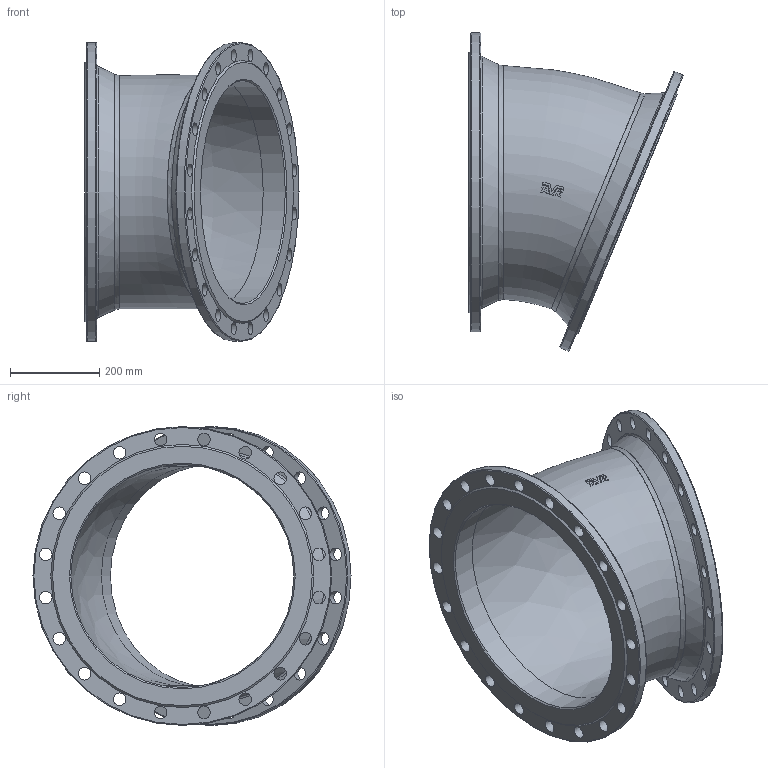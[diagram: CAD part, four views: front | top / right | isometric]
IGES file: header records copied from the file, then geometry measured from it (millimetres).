
Start section: SolidWorks IGES file using analytic representation for surfaces
Global section: file name: \\avksan2\techshare\PBM outline export from Enovia\O_712_0210_DN500_0X_REV01.igs; native system: SolidWorks 2022; preprocessor: SolidWorks 2022; author: pbm; date: 240815.142905; units: millimetre
Bounding box: 479.81 x 713.15 x 670 mm (x, y, z)
Surface area: 1744063.6 mm2 (no closed solid volume)
Topology: 0 solids, 0 shells, 107 faces, 519 edges, 459 vertices
Faces by surface type: revolution 64, bspline 43
